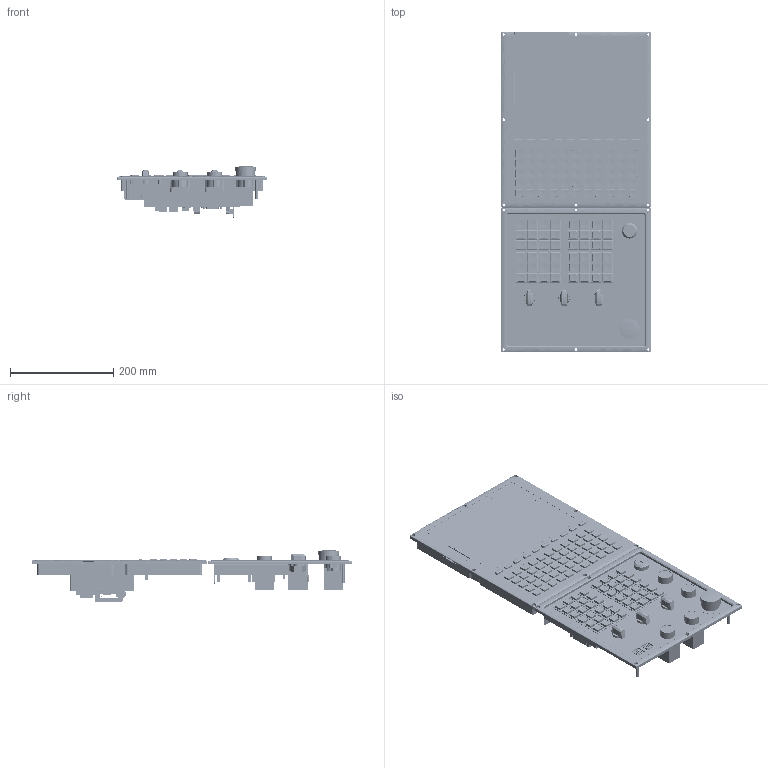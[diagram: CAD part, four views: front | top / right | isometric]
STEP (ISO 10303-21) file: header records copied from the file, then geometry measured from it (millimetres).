
FILE_DESCRIPTION (( 'STEP AP214' ), '1' );
FILE_NAME ('B-10.4铣床立式+辅助板开窗尺寸.STEP', '2022-12-27T10:21:59', ( 'admin' ), ( '' ), 'SwSTEP 2.0', 'SolidWorks 2018', '' );
FILE_SCHEMA (( 'AUTOMOTIVE_DESIGN' ));
Products named in the file (1): B-10.4铣床立式+辅助板开窗尺寸
Bounding box: 290 x 620 x 99.5 mm (x, y, z)
Volume: 4042146.8 mm3; surface area: 889521.6 mm2
Topology: 2 solids, 301 shells, 15461 faces, 41905 edges, 27067 vertices
Faces by surface type: plane 9170, cylinder 3427, torus 1272, bspline 672, sphere 642, cone 278
Entity records: 521562 total; most frequent: CARTESIAN_POINT 125139, ORIENTED_EDGE 83794, DIRECTION 83194, EDGE_CURVE 41897, AXIS2_PLACEMENT_3D 28602, VERTEX_POINT 27067, LINE 25990, VECTOR 25990
